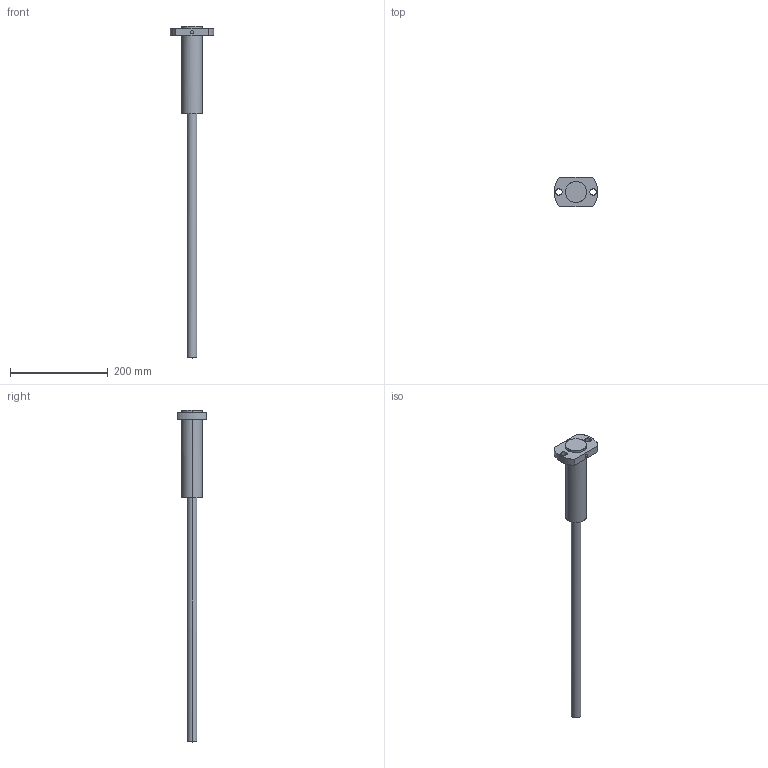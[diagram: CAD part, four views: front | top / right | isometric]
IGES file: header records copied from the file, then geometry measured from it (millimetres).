
Global section: file name: E:\UnigraphicsGraphicData\MISUMI_PRESS-PARTS\IGES\3d_papz20-500-180-160-500_01709_r00.igs; native system: NX V5.0; preprocessor: UGS NX IGES V5.0; author: MISUMI; date: 20110105.162228; units: millimetre
Bounding box: 90 x 60 x 680 mm (x, y, z)
Surface area: 72825.2 mm2 (no closed solid volume)
Topology: 0 solids, 0 shells, 23 faces, 220 edges, 218 vertices
Faces by surface type: bspline 23
